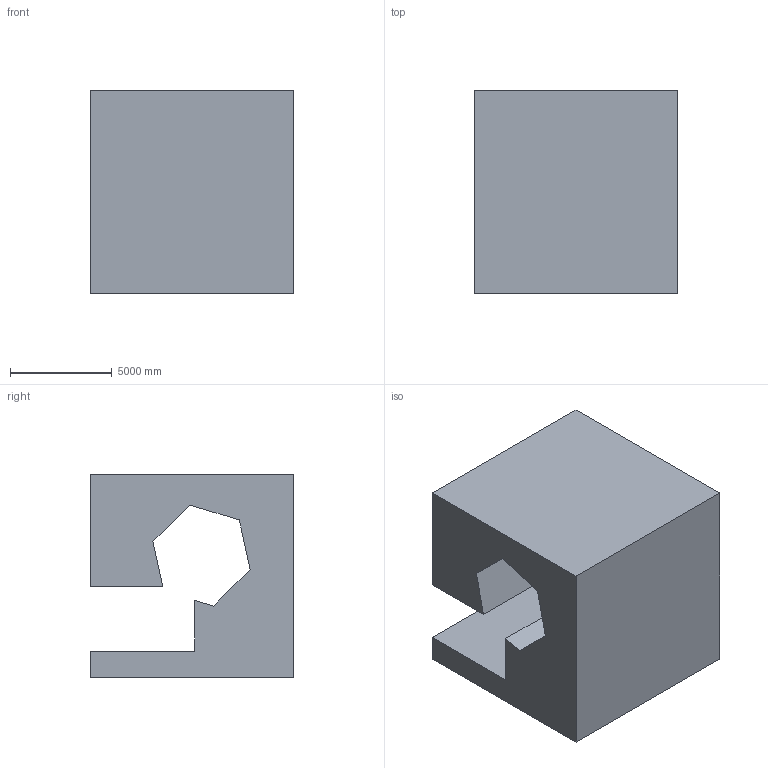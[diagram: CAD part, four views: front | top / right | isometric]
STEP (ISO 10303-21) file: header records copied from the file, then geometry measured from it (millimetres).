
FILE_DESCRIPTION (( 'STEP AP203' ), '1' );
FILE_NAME ('21.STEP', '2022-07-28T13:25:32', ( 'user' ), ( '' ), 'SwSTEP 2.0', 'SolidWorks 2021', '' );
FILE_SCHEMA (( 'CONFIG_CONTROL_DESIGN' ));
Length unit declared in the file: centimetre
Products named in the file (1): 21
Bounding box: 10000 x 10000 x 10000 mm (x, y, z)
Volume: 678122497043 mm3; surface area: 749895583 mm2
Topology: 1 solids, 1 shells, 16 faces, 42 edges, 28 vertices
Faces by surface type: plane 16
Entity records: 563 total; most frequent: CARTESIAN_POINT 87, ORIENTED_EDGE 84, DIRECTION 76, VECTOR 42, EDGE_CURVE 42, LINE 42, VERTEX_POINT 28, AXIS2_PLACEMENT_3D 17
